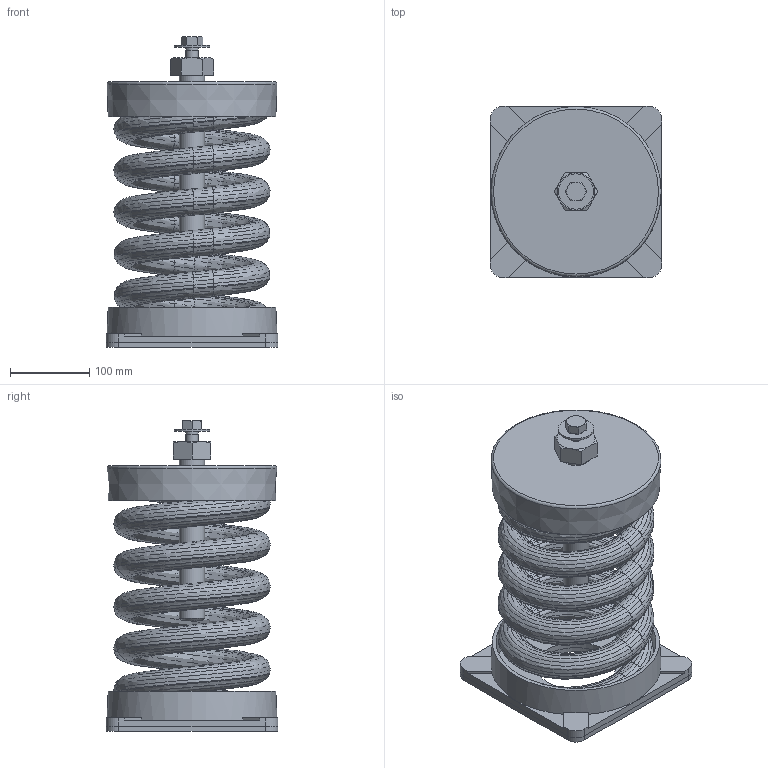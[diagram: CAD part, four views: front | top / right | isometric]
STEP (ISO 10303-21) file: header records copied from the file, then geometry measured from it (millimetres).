
FILE_DESCRIPTION(/* description */ (''),/* implementation_level */ '2;1');
FILE_NAME(/* name */ 'C:\001_Work\Designs\SLF ASSEMBLIES\SLF-139.stp',/* time_stamp */ '2016-01-11T10:23:19-05:00',/* author */ ('rramoutar'),/* organization */ ('Mason Industries Inc.'),/* preprocessor_version */ 'ST-DEVELOPER v15.6',/* originating_system */ 'Autodesk Inventor 2015',/* authorisation */ '');
FILE_SCHEMA (('CONFIG_CONTROL_DESIGN'));
Products named in the file (1): SLF-139
Bounding box: 215.9 x 215.9 x 391.64 mm (x, y, z)
Volume: 1656340 mm3; surface area: 996932.8 mm2
Topology: 7 solids, 7 shells, 734 faces, 1552 edges, 841 vertices
Faces by surface type: bspline 540, plane 137, cone 30, cylinder 25, torus 2
Full cylindrical faces by diameter (mm): 12.7 x4, 13.386 x1, 15.875 x1, 16.662 x1, 23.825 x1, 28.178 x1, 31.75 x1, 44.45 x1, 101.6 x2, 201.612 x2
Entity records: 41331 total; most frequent: CARTESIAN_POINT 29225, ORIENTED_EDGE 3046, EDGE_CURVE 1523, B_SPLINE_CURVE_WITH_KNOTS 1092, DIRECTION 860, VERTEX_POINT 835, EDGE_LOOP 776, STYLED_ITEM 741
